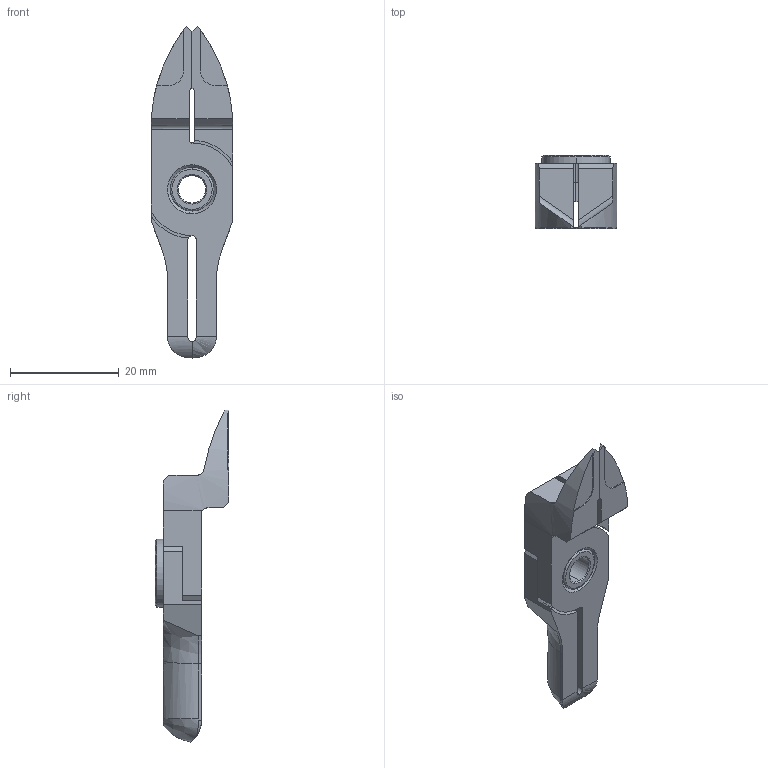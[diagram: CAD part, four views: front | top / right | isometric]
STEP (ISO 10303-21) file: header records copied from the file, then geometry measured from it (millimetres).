
FILE_DESCRIPTION (( 'STEP AP214' ), '1' );
FILE_NAME ('NY05RAH.STEP', '2019-11-28T04:01:52', ( '微软用户' ), ( '微软中国' ), 'SwSTEP 2.0', 'SolidWorks 2016', '' );
FILE_SCHEMA (( 'AUTOMOTIVE_DESIGN' ));
Length unit declared in the file: millimetre
Products named in the file (4): BR2; BR1; BS; NY05RAH
Assembly tree (3 placements, depth 2):
  NY05RAH
    BS
    BR1
    BR2
Bounding box: 15 x 13.5 x 61 mm (x, y, z)
Volume: 4068.1 mm3; surface area: 3992.8 mm2
Topology: 3 solids, 3 shells, 145 faces, 389 edges, 250 vertices
Faces by surface type: plane 49, bspline 43, cylinder 35, cone 14, torus 4
Entity records: 5376 total; most frequent: CARTESIAN_POINT 1975, ORIENTED_EDGE 768, DIRECTION 588, EDGE_CURVE 384, VERTEX_POINT 250, AXIS2_PLACEMENT_3D 205, VECTOR 178, LINE 178
